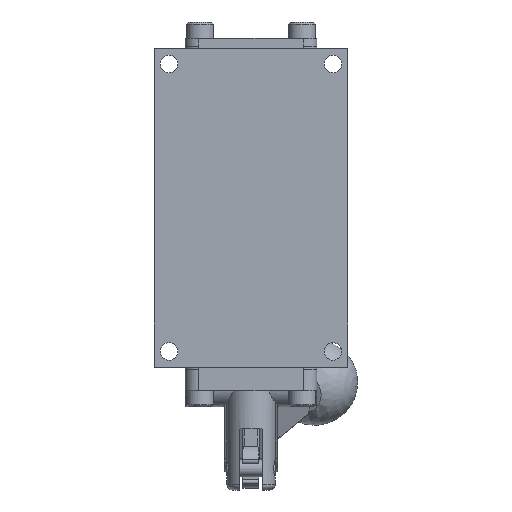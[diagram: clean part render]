
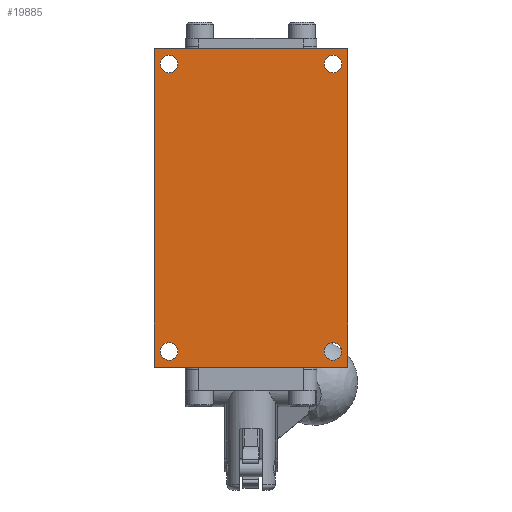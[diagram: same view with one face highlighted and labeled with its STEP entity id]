
A CAD part, front view. The second image highlights one B-rep face of the part: STEP entity #19885.
In plain terms, the highlighted planar face has unit normal (0, -1, 0).
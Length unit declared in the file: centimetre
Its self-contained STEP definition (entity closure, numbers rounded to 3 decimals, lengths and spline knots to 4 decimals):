
#2336=FACE_BOUND('',#3794,.T.);
#2337=FACE_BOUND('',#3795,.T.);
#2338=FACE_BOUND('',#3796,.T.);
#2339=FACE_BOUND('',#3797,.T.);
#2602=FACE_OUTER_BOUND('',#3793,.T.);
#3793=EDGE_LOOP('',(#14227,#14228,#14229,#14230));
#3794=EDGE_LOOP('',(#14231));
#3795=EDGE_LOOP('',(#14232));
#3796=EDGE_LOOP('',(#14233));
#3797=EDGE_LOOP('',(#14234));
#5087=CIRCLE('',#21240,0.2578);
#5088=CIRCLE('',#21241,0.2578);
#5089=CIRCLE('',#21242,0.2578);
#5090=CIRCLE('',#21243,0.2578);
#6064=LINE('',#29231,#7542);
#6065=LINE('',#29233,#7543);
#6066=LINE('',#29235,#7544);
#6067=LINE('',#29236,#7545);
#7542=VECTOR('',#23706,1.);
#7543=VECTOR('',#23707,1.);
#7544=VECTOR('',#23708,1.);
#7545=VECTOR('',#23709,1.);
#9058=VERTEX_POINT('',#29229);
#9059=VERTEX_POINT('',#29230);
#9060=VERTEX_POINT('',#29232);
#9061=VERTEX_POINT('',#29234);
#9062=VERTEX_POINT('',#29237);
#9063=VERTEX_POINT('',#29239);
#9064=VERTEX_POINT('',#29241);
#9065=VERTEX_POINT('',#29243);
#11036=EDGE_CURVE('',#9058,#9059,#6064,.T.);
#11037=EDGE_CURVE('',#9060,#9058,#6065,.T.);
#11038=EDGE_CURVE('',#9061,#9060,#6066,.T.);
#11039=EDGE_CURVE('',#9059,#9061,#6067,.T.);
#11040=EDGE_CURVE('',#9062,#9062,#5087,.T.);
#11041=EDGE_CURVE('',#9063,#9063,#5088,.T.);
#11042=EDGE_CURVE('',#9064,#9064,#5089,.T.);
#11043=EDGE_CURVE('',#9065,#9065,#5090,.T.);
#14227=ORIENTED_EDGE('',*,*,#11036,.F.);
#14228=ORIENTED_EDGE('',*,*,#11037,.F.);
#14229=ORIENTED_EDGE('',*,*,#11038,.F.);
#14230=ORIENTED_EDGE('',*,*,#11039,.F.);
#14231=ORIENTED_EDGE('',*,*,#11040,.T.);
#14232=ORIENTED_EDGE('',*,*,#11041,.T.);
#14233=ORIENTED_EDGE('',*,*,#11042,.T.);
#14234=ORIENTED_EDGE('',*,*,#11043,.T.);
#19309=PLANE('',#21239);
#19885=ADVANCED_FACE('',(#2602,#2336,#2337,#2338,#2339),#19309,.F.);
#21239=AXIS2_PLACEMENT_3D('',#29228,#23704,#23705);
#21240=AXIS2_PLACEMENT_3D('',#29238,#23710,#23711);
#21241=AXIS2_PLACEMENT_3D('',#29240,#23712,#23713);
#21242=AXIS2_PLACEMENT_3D('',#29242,#23714,#23715);
#21243=AXIS2_PLACEMENT_3D('',#29244,#23716,#23717);
#23704=DIRECTION('center_axis',(0.,1.,0.));
#23705=DIRECTION('ref_axis',(0.,0.,1.));
#23706=DIRECTION('',(0.,0.,1.));
#23707=DIRECTION('',(-1.,0.,0.));
#23708=DIRECTION('',(0.,0.,-1.));
#23709=DIRECTION('',(1.,0.,0.));
#23710=DIRECTION('center_axis',(0.,1.,0.));
#23711=DIRECTION('ref_axis',(-1.,0.,0.));
#23712=DIRECTION('center_axis',(0.,1.,0.));
#23713=DIRECTION('ref_axis',(-1.,0.,0.));
#23714=DIRECTION('center_axis',(0.,1.,0.));
#23715=DIRECTION('ref_axis',(-1.,0.,0.));
#23716=DIRECTION('center_axis',(0.,1.,0.));
#23717=DIRECTION('ref_axis',(-1.,0.,0.));
#29228=CARTESIAN_POINT('Origin',(0.,-1.6358,0.));
#29229=CARTESIAN_POINT('',(-2.8575,-1.6358,-4.7104));
#29230=CARTESIAN_POINT('',(-2.8575,-1.6358,4.7104));
#29231=CARTESIAN_POINT('',(-2.8575,-1.6358,-4.7104));
#29232=CARTESIAN_POINT('',(2.8575,-1.6358,-4.7104));
#29233=CARTESIAN_POINT('',(2.8575,-1.6358,-4.7104));
#29234=CARTESIAN_POINT('',(2.8575,-1.6358,4.7104));
#29235=CARTESIAN_POINT('',(2.8575,-1.6358,4.7104));
#29236=CARTESIAN_POINT('',(-2.8575,-1.6358,4.7104));
#29237=CARTESIAN_POINT('',(-2.1628,-1.6358,-4.2469));
#29238=CARTESIAN_POINT('Origin',(-2.4206,-1.6358,-4.2469));
#29239=CARTESIAN_POINT('',(-2.1628,-1.6358,4.2469));
#29240=CARTESIAN_POINT('Origin',(-2.4206,-1.6358,4.2469));
#29241=CARTESIAN_POINT('',(2.6784,-1.6358,-4.2469));
#29242=CARTESIAN_POINT('Origin',(2.4206,-1.6358,-4.2469));
#29243=CARTESIAN_POINT('',(2.6784,-1.6358,4.2469));
#29244=CARTESIAN_POINT('Origin',(2.4206,-1.6358,4.2469));
